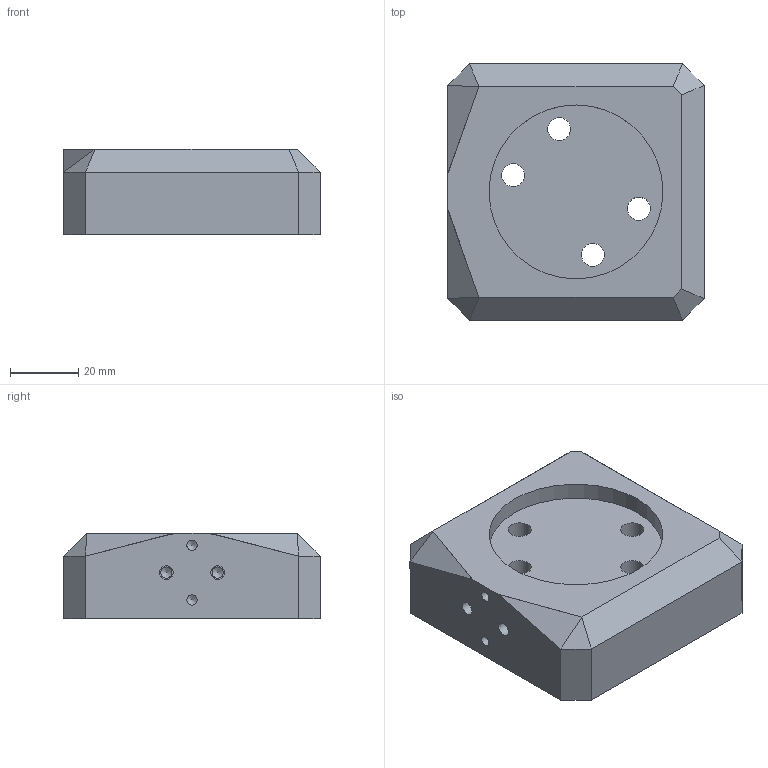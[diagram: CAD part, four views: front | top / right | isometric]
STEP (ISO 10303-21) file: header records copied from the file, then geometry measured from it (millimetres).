
FILE_DESCRIPTION (( 'STEP AP214' ), '1' );
FILE_NAME ('A52-CERX-1.STEP', '2025-08-13T04:33:21', ( '' ), ( '' ), 'SwSTEP 2.0', 'SolidWorks 2025', '' );
FILE_SCHEMA (( 'AUTOMOTIVE_DESIGN' ));
Length unit declared in the file: inch
Products named in the file (1): A52-CERX-1
Bounding box: 75 x 75 x 25 mm (x, y, z)
Volume: 113950 mm3; surface area: 21997.6 mm2
Topology: 1 solids, 1 shells, 65 faces, 136 edges, 84 vertices
Faces by surface type: plane 34, cylinder 23, cone 8
Full cylindrical faces by diameter (mm): 3.023 x2, 3.3 x2, 4 x2, 6.756 x4, 6.8 x4, 11 x4, 12.017 x4, 50.838 x1
Entity records: 1496 total; most frequent: DIRECTION 271, CARTESIAN_POINT 231, ORIENTED_EDGE 186, EDGE_LOOP 115, AXIS2_PLACEMENT_3D 112, EDGE_CURVE 93, FACE_OUTER_BOUND 88, VERTEX_POINT 72
